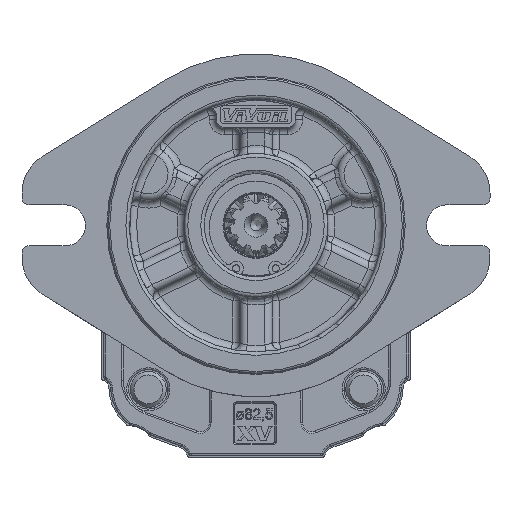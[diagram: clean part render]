
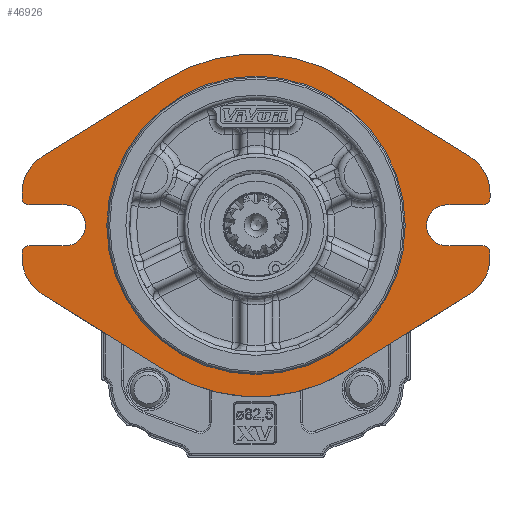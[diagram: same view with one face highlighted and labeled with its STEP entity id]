
A CAD part, front view. The second image highlights one B-rep face of the part: STEP entity #46926.
In plain terms, the highlighted planar face has unit normal (0, -1, 0).
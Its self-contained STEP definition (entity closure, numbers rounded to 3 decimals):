
#2742=LINE('',#65978,#4764);
#2746=LINE('',#65990,#4768);
#2747=LINE('',#65992,#4769);
#2754=LINE('',#66011,#4776);
#2755=LINE('',#66013,#4777);
#2762=LINE('',#66042,#4784);
#2763=LINE('',#66047,#4785);
#2764=LINE('',#66051,#4786);
#2765=LINE('',#66054,#4787);
#2766=LINE('',#66058,#4788);
#2767=LINE('',#66062,#4789);
#2768=LINE('',#66066,#4790);
#4764=VECTOR('',#54192,1000.);
#4768=VECTOR('',#54204,1000.);
#4769=VECTOR('',#54207,1000.);
#4776=VECTOR('',#54222,1000.);
#4777=VECTOR('',#54225,1000.);
#4784=VECTOR('',#54254,1000.);
#4785=VECTOR('',#54257,1000.);
#4786=VECTOR('',#54260,1000.);
#4787=VECTOR('',#54265,1000.);
#4788=VECTOR('',#54268,1000.);
#4789=VECTOR('',#54271,1000.);
#4790=VECTOR('',#54274,1000.);
#6334=PLANE('',#49433);
#9971=ORIENTED_EDGE('',*,*,#18956,.T.);
#9972=ORIENTED_EDGE('',*,*,#18957,.F.);
#9973=ORIENTED_EDGE('',*,*,#18958,.T.);
#9974=ORIENTED_EDGE('',*,*,#18959,.F.);
#9975=ORIENTED_EDGE('',*,*,#18960,.F.);
#9976=ORIENTED_EDGE('',*,*,#18961,.F.);
#9977=ORIENTED_EDGE('',*,*,#18877,.F.);
#9978=ORIENTED_EDGE('',*,*,#18926,.F.);
#9979=ORIENTED_EDGE('',*,*,#18929,.F.);
#9980=ORIENTED_EDGE('',*,*,#18932,.F.);
#9981=ORIENTED_EDGE('',*,*,#18962,.T.);
#9982=ORIENTED_EDGE('',*,*,#18933,.F.);
#9983=ORIENTED_EDGE('',*,*,#18939,.F.);
#9984=ORIENTED_EDGE('',*,*,#18942,.F.);
#9985=ORIENTED_EDGE('',*,*,#18963,.T.);
#9986=ORIENTED_EDGE('',*,*,#18943,.F.);
#9987=ORIENTED_EDGE('',*,*,#18955,.F.);
#9988=ORIENTED_EDGE('',*,*,#18964,.F.);
#9989=ORIENTED_EDGE('',*,*,#18965,.F.);
#9990=ORIENTED_EDGE('',*,*,#18966,.F.);
#9991=ORIENTED_EDGE('',*,*,#18967,.F.);
#9992=ORIENTED_EDGE('',*,*,#18968,.F.);
#9993=ORIENTED_EDGE('',*,*,#18969,.T.);
#9994=ORIENTED_EDGE('',*,*,#18970,.F.);
#9995=ORIENTED_EDGE('',*,*,#18971,.F.);
#18877=EDGE_CURVE('',#23516,#23517,#26220,.T.);
#18926=EDGE_CURVE('',#23559,#23516,#2742,.T.);
#18929=EDGE_CURVE('',#23561,#23559,#26248,.T.);
#18932=EDGE_CURVE('',#23563,#23561,#2746,.T.);
#18933=EDGE_CURVE('',#23564,#23565,#2747,.T.);
#18939=EDGE_CURVE('',#23569,#23564,#26250,.T.);
#18942=EDGE_CURVE('',#23571,#23569,#2754,.T.);
#18943=EDGE_CURVE('',#23572,#23573,#2755,.T.);
#18955=EDGE_CURVE('',#23581,#23572,#26256,.T.);
#18956=EDGE_CURVE('',#23582,#23582,#26257,.T.);
#18957=EDGE_CURVE('',#23583,#23584,#2762,.T.);
#18958=EDGE_CURVE('',#23583,#23585,#26258,.F.);
#18959=EDGE_CURVE('',#23586,#23585,#2763,.T.);
#18960=EDGE_CURVE('',#23587,#23586,#26259,.T.);
#18961=EDGE_CURVE('',#23517,#23587,#2764,.T.);
#18962=EDGE_CURVE('',#23563,#23565,#26260,.F.);
#18963=EDGE_CURVE('',#23571,#23573,#26261,.F.);
#18964=EDGE_CURVE('',#23588,#23581,#2765,.T.);
#18965=EDGE_CURVE('',#23589,#23588,#26262,.T.);
#18966=EDGE_CURVE('',#23590,#23589,#2766,.T.);
#18967=EDGE_CURVE('',#23591,#23590,#26263,.T.);
#18968=EDGE_CURVE('',#23592,#23591,#2767,.T.);
#18969=EDGE_CURVE('',#23592,#23593,#26264,.F.);
#18970=EDGE_CURVE('',#23594,#23593,#2768,.T.);
#18971=EDGE_CURVE('',#23584,#23594,#26265,.T.);
#23516=VERTEX_POINT('',#65878);
#23517=VERTEX_POINT('',#65880);
#23559=VERTEX_POINT('',#65977);
#23561=VERTEX_POINT('',#65983);
#23563=VERTEX_POINT('',#65989);
#23564=VERTEX_POINT('',#65993);
#23565=VERTEX_POINT('',#65994);
#23569=VERTEX_POINT('',#66004);
#23571=VERTEX_POINT('',#66010);
#23572=VERTEX_POINT('',#66014);
#23573=VERTEX_POINT('',#66015);
#23581=VERTEX_POINT('',#66037);
#23582=VERTEX_POINT('',#66041);
#23583=VERTEX_POINT('',#66043);
#23584=VERTEX_POINT('',#66044);
#23585=VERTEX_POINT('',#66046);
#23586=VERTEX_POINT('',#66048);
#23587=VERTEX_POINT('',#66050);
#23588=VERTEX_POINT('',#66055);
#23589=VERTEX_POINT('',#66057);
#23590=VERTEX_POINT('',#66059);
#23591=VERTEX_POINT('',#66061);
#23592=VERTEX_POINT('',#66063);
#23593=VERTEX_POINT('',#66065);
#23594=VERTEX_POINT('',#66067);
#26220=CIRCLE('',#49382,47.75);
#26248=CIRCLE('',#49416,12.);
#26250=CIRCLE('',#49421,5.7);
#26256=CIRCLE('',#49432,12.);
#26257=CIRCLE('',#49434,40.982);
#26258=CIRCLE('',#49435,2.);
#26259=CIRCLE('',#49436,12.);
#26260=CIRCLE('',#49437,2.);
#26261=CIRCLE('',#49438,2.);
#26262=CIRCLE('',#49439,47.75);
#26263=CIRCLE('',#49440,12.);
#26264=CIRCLE('',#49441,2.);
#26265=CIRCLE('',#49442,5.7);
#28000=EDGE_LOOP('',(#9971));
#28001=EDGE_LOOP('',(#9972,#9973,#9974,#9975,#9976,#9977,#9978,#9979,#9980,
#9981,#9982,#9983,#9984,#9985,#9986,#9987,#9988,#9989,#9990,#9991,#9992,
#9993,#9994,#9995));
#30358=FACE_BOUND('',#28000,.T.);
#30359=FACE_BOUND('',#28001,.T.);
#46926=ADVANCED_FACE('',(#30358,#30359),#6334,.F.);
#49382=AXIS2_PLACEMENT_3D('',#65879,#54108,#54109);
#49416=AXIS2_PLACEMENT_3D('',#65984,#54198,#54199);
#49421=AXIS2_PLACEMENT_3D('',#66005,#54216,#54217);
#49432=AXIS2_PLACEMENT_3D('',#66038,#54248,#54249);
#49433=AXIS2_PLACEMENT_3D('',#66039,#54250,#54251);
#49434=AXIS2_PLACEMENT_3D('',#66040,#54252,#54253);
#49435=AXIS2_PLACEMENT_3D('',#66045,#54255,#54256);
#49436=AXIS2_PLACEMENT_3D('',#66049,#54258,#54259);
#49437=AXIS2_PLACEMENT_3D('',#66052,#54261,#54262);
#49438=AXIS2_PLACEMENT_3D('',#66053,#54263,#54264);
#49439=AXIS2_PLACEMENT_3D('',#66056,#54266,#54267);
#49440=AXIS2_PLACEMENT_3D('',#66060,#54269,#54270);
#49441=AXIS2_PLACEMENT_3D('',#66064,#54272,#54273);
#49442=AXIS2_PLACEMENT_3D('',#66068,#54275,#54276);
#54108=DIRECTION('',(0.,1.,0.));
#54109=DIRECTION('',(-1.,0.,0.));
#54192=DIRECTION('',(-0.849,0.,-0.528));
#54198=DIRECTION('',(0.,1.,0.));
#54199=DIRECTION('',(-1.,0.,0.));
#54204=DIRECTION('',(0.,0.,-1.));
#54207=DIRECTION('',(1.,0.,0.));
#54216=DIRECTION('',(0.,-1.,0.));
#54217=DIRECTION('',(1.,0.,0.));
#54222=DIRECTION('',(-1.,0.,0.));
#54225=DIRECTION('',(0.,0.,-1.));
#54248=DIRECTION('',(0.,1.,0.));
#54249=DIRECTION('',(-1.,0.,0.));
#54250=DIRECTION('',(0.,1.,0.));
#54251=DIRECTION('',(0.,0.,-1.));
#54252=DIRECTION('',(0.,1.,0.));
#54253=DIRECTION('',(-1.,0.,0.));
#54254=DIRECTION('',(1.,0.,0.));
#54255=DIRECTION('',(0.,1.,0.));
#54256=DIRECTION('',(0.,0.,-1.));
#54257=DIRECTION('',(0.,0.,1.));
#54258=DIRECTION('',(0.,1.,0.));
#54259=DIRECTION('',(1.,0.,0.));
#54260=DIRECTION('',(-0.849,0.,0.528));
#54261=DIRECTION('',(0.,1.,0.));
#54262=DIRECTION('',(0.,0.,-1.));
#54263=DIRECTION('',(0.,1.,0.));
#54264=DIRECTION('',(0.,0.,-1.));
#54265=DIRECTION('',(0.849,0.,-0.528));
#54266=DIRECTION('',(0.,1.,0.));
#54267=DIRECTION('',(-1.,0.,0.));
#54268=DIRECTION('',(0.849,0.,0.528));
#54269=DIRECTION('',(0.,1.,0.));
#54270=DIRECTION('',(1.,0.,0.));
#54271=DIRECTION('',(0.,0.,1.));
#54272=DIRECTION('',(0.,1.,0.));
#54273=DIRECTION('',(0.,0.,-1.));
#54274=DIRECTION('',(-1.,0.,0.));
#54275=DIRECTION('',(0.,-1.,0.));
#54276=DIRECTION('',(-1.,0.,0.));
#65878=CARTESIAN_POINT('',(25.235,-19.,-24.837));
#65879=CARTESIAN_POINT('',(0.,-19.,15.7));
#65880=CARTESIAN_POINT('',(-25.235,-19.,-24.837));
#65977=CARTESIAN_POINT('',(59.532,-19.,-3.487));
#65978=CARTESIAN_POINT('',(59.532,-19.,-3.487));
#65983=CARTESIAN_POINT('',(65.19,-19.,6.7));
#65984=CARTESIAN_POINT('',(53.19,-19.,6.7));
#65989=CARTESIAN_POINT('',(65.19,-19.,8.));
#65990=CARTESIAN_POINT('',(65.19,-19.,6.7));
#65992=CARTESIAN_POINT('',(53.19,-19.,10.));
#65993=CARTESIAN_POINT('',(53.19,-19.,10.));
#65994=CARTESIAN_POINT('',(63.19,-19.,10.));
#66004=CARTESIAN_POINT('',(53.19,-19.,21.4));
#66005=CARTESIAN_POINT('',(53.19,-19.,15.7));
#66010=CARTESIAN_POINT('',(63.19,-19.,21.4));
#66011=CARTESIAN_POINT('',(53.19,-19.,21.4));
#66013=CARTESIAN_POINT('',(65.19,-19.,24.7));
#66014=CARTESIAN_POINT('',(65.19,-19.,24.7));
#66015=CARTESIAN_POINT('',(65.19,-19.,23.4));
#66037=CARTESIAN_POINT('',(59.532,-19.,34.887));
#66038=CARTESIAN_POINT('',(53.19,-19.,24.7));
#66039=CARTESIAN_POINT('',(0.,-19.,15.7));
#66040=CARTESIAN_POINT('',(0.,-19.,15.7));
#66041=CARTESIAN_POINT('',(-40.982,-19.,15.7));
#66042=CARTESIAN_POINT('',(-53.19,-19.,10.));
#66043=CARTESIAN_POINT('',(-63.19,-19.,10.));
#66044=CARTESIAN_POINT('',(-53.19,-19.,10.));
#66045=CARTESIAN_POINT('',(-63.19,-19.,8.));
#66046=CARTESIAN_POINT('',(-65.19,-19.,8.));
#66047=CARTESIAN_POINT('',(-65.19,-19.,6.7));
#66048=CARTESIAN_POINT('',(-65.19,-19.,6.7));
#66049=CARTESIAN_POINT('',(-53.19,-19.,6.7));
#66050=CARTESIAN_POINT('',(-59.532,-19.,-3.487));
#66051=CARTESIAN_POINT('',(-59.532,-19.,-3.487));
#66052=CARTESIAN_POINT('',(63.19,-19.,8.));
#66053=CARTESIAN_POINT('',(63.19,-19.,23.4));
#66054=CARTESIAN_POINT('',(25.235,-19.,56.237));
#66055=CARTESIAN_POINT('',(25.235,-19.,56.237));
#66056=CARTESIAN_POINT('',(0.,-19.,15.7));
#66057=CARTESIAN_POINT('',(-25.235,-19.,56.237));
#66058=CARTESIAN_POINT('',(-25.235,-19.,56.237));
#66059=CARTESIAN_POINT('',(-59.532,-19.,34.887));
#66060=CARTESIAN_POINT('',(-53.19,-19.,24.7));
#66061=CARTESIAN_POINT('',(-65.19,-19.,24.7));
#66062=CARTESIAN_POINT('',(-65.19,-19.,24.7));
#66063=CARTESIAN_POINT('',(-65.19,-19.,23.4));
#66064=CARTESIAN_POINT('',(-63.19,-19.,23.4));
#66065=CARTESIAN_POINT('',(-63.19,-19.,21.4));
#66066=CARTESIAN_POINT('',(-53.19,-19.,21.4));
#66067=CARTESIAN_POINT('',(-53.19,-19.,21.4));
#66068=CARTESIAN_POINT('',(-53.19,-19.,15.7));
